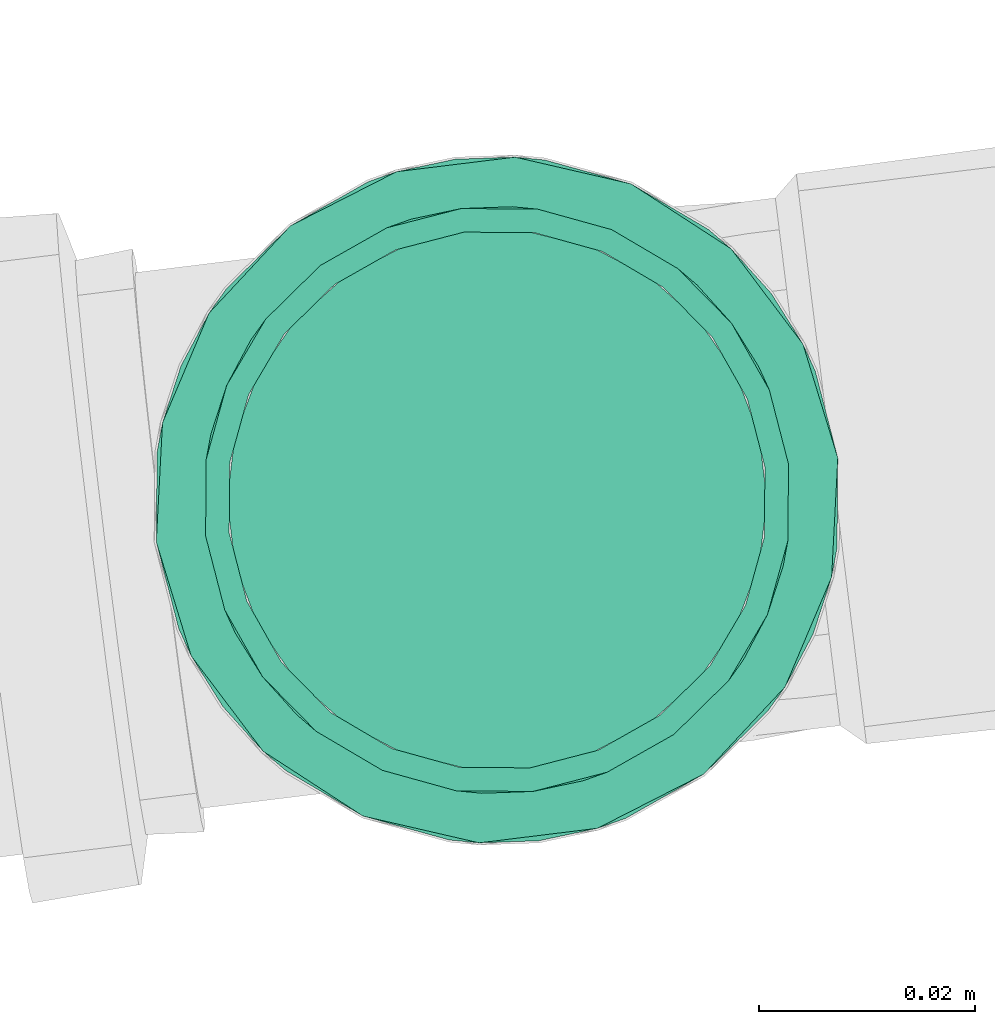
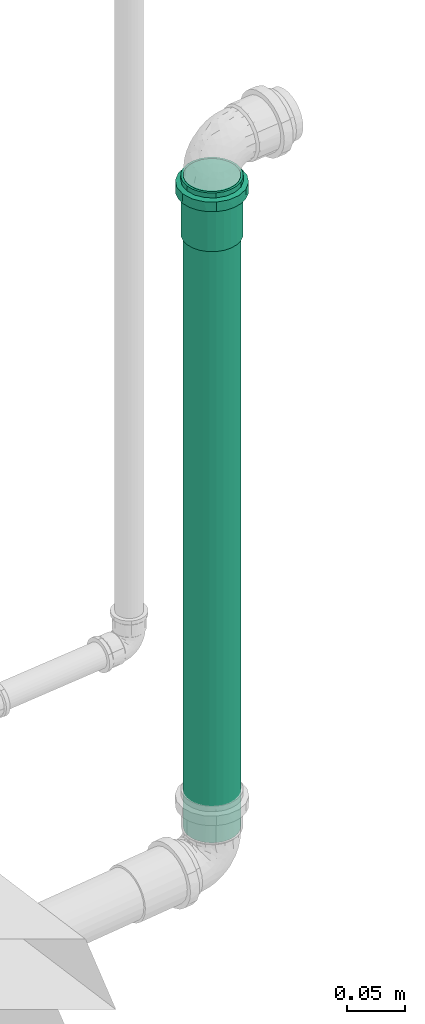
# One storey, part 57 of 97: 1 flow fitting, 1 flow segment.
"""IFC2X3 building model written with IfcOpenShell, lengths in centimetres."""

from ifc_helpers import new_model, entity, si_unit, converted_unit, derived_unit, direction, frame, origin, origin_2d_with_axis, place, context, subcontext, project, spatial, circle, extrude, faceted_brep, source, transform, mapped, material, type_object, type_shapes, element, save


model = new_model("IFC2X3")

# Units and contexts
model_context = context("Model", 3, precision=0.001, world=origin(), true_north=direction((6.12303176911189e-17, 1.0)))
body_context = subcontext(model_context, "Body", "Model", "MODEL_VIEW")
ifc_project = project(units=[si_unit("LENGTHUNIT", "METRE", prefix="CENTI"), si_unit("AREAUNIT", "SQUARE_METRE"), si_unit("VOLUMEUNIT", "CUBIC_METRE"), converted_unit("PLANEANGLEUNIT", "DEGREE", entity("IfcRatioMeasure", 0.0174532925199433), si_unit("PLANEANGLEUNIT", "RADIAN"), dimensions=[0, 0, 0, 0, 0, 0, 0]), si_unit("MASSUNIT", "GRAM", prefix="KILO"), derived_unit("MASSDENSITYUNIT", [(si_unit("MASSUNIT", "GRAM", prefix="KILO"), 1), (si_unit("LENGTHUNIT", "METRE"), -3)]), derived_unit("MOMENTOFINERTIAUNIT", [(si_unit("LENGTHUNIT", "METRE"), 4)]), si_unit("TIMEUNIT", "SECOND"), si_unit("FREQUENCYUNIT", "HERTZ"), si_unit("THERMODYNAMICTEMPERATUREUNIT", "DEGREE_CELSIUS"), derived_unit("THERMALTRANSMITTANCEUNIT", [(si_unit("MASSUNIT", "GRAM", prefix="KILO"), 1), (si_unit("THERMODYNAMICTEMPERATUREUNIT", "KELVIN"), -1), (si_unit("TIMEUNIT", "SECOND"), -3)]), derived_unit("VOLUMETRICFLOWRATEUNIT", [(si_unit("LENGTHUNIT", "METRE"), 3), (si_unit("TIMEUNIT", "SECOND"), -1)]), si_unit("ELECTRICCURRENTUNIT", "AMPERE"), si_unit("ELECTRICVOLTAGEUNIT", "VOLT"), si_unit("POWERUNIT", "WATT"), si_unit("FORCEUNIT", "NEWTON", prefix="KILO"), si_unit("ILLUMINANCEUNIT", "LUX"), si_unit("LUMINOUSFLUXUNIT", "LUMEN"), si_unit("LUMINOUSINTENSITYUNIT", "CANDELA"), derived_unit("USERDEFINED", [(si_unit("MASSUNIT", "GRAM", prefix="KILO"), -1), (si_unit("LENGTHUNIT", "METRE"), -2), (si_unit("TIMEUNIT", "SECOND"), 3), (si_unit("LUMINOUSFLUXUNIT", "LUMEN"), 1)]), derived_unit("LINEARVELOCITYUNIT", [(si_unit("LENGTHUNIT", "METRE"), 1), (si_unit("TIMEUNIT", "SECOND"), -1)]), si_unit("PRESSUREUNIT", "PASCAL"), derived_unit("USERDEFINED", [(si_unit("LENGTHUNIT", "METRE"), -2), (si_unit("MASSUNIT", "GRAM", prefix="KILO"), 1), (si_unit("TIMEUNIT", "SECOND"), -2)]), derived_unit("LINEARFORCEUNIT", [(si_unit("MASSUNIT", "GRAM", prefix="KILO"), 1), (si_unit("LENGTHUNIT", "METRE"), 1), (si_unit("TIMEUNIT", "SECOND"), -2), (si_unit("LENGTHUNIT", "METRE"), -1)]), derived_unit("PLANARFORCEUNIT", [(si_unit("MASSUNIT", "GRAM", prefix="KILO"), 1), (si_unit("LENGTHUNIT", "METRE"), 1), (si_unit("TIMEUNIT", "SECOND"), -2), (si_unit("LENGTHUNIT", "METRE"), -2)])], contexts=[model_context])

# Site, building, storey
site_placement = place(None, origin())
site = spatial("IfcSite", under=ifc_project, at=site_placement, Name="Default", CompositionType="ELEMENT")
building_placement = place(site_placement, origin())
building = spatial("IfcBuilding", under=site, at=building_placement, Name="HIDROSSANITÁRIO", CompositionType="ELEMENT")
storey_placement = place(building_placement, frame((0.0, 0.0, -260.0)))
storey = spatial("IfcBuildingStorey", under=building, at=storey_placement, Name="TÉRREO-HID", CompositionType="ELEMENT", Elevation=-260.0)

# Flow segment
pipe_segment_type = type_object("IfcPipeSegmentType", Name="Tipos de tubos:Tubo - Esgoto - Série Normal", PredefinedType="NOTDEFINED")
flow_segment_placement = place(storey_placement, origin())
element("IfcFlowSegment", 1, at=flow_segment_placement, inside=storey, type_object=pipe_segment_type, Name="Tipos de tubos:Tubo - Esgoto - Série Normal", ObjectType="Tipos de tubos:Tubo - Esgoto - Série Normal", context=body_context, shape_type="SweptSolid", body=[
    extrude(circle(Radius=2.5, at=origin_2d_with_axis()), frame((812.888179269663, 3194.00373930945, -21.9314800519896)), (0.0, 0.0, 1.0), 68.8114800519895),
])

# Flow fitting
ifc_material = material(Name="PVC Branco")
pipe_fitting_type = type_object("IfcPipeFittingType", Name="Luva Simples para Conexão - Serie Normal - Esgoto - MEP - Tigre:Standard", PredefinedType="NOTDEFINED", material=ifc_material)
shared_shape = source(origin(), body_context, "Body", "Brep", [
    faceted_brep([(1.65999999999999, 1.59, -2.75396078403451), (1.65999999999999, 2.24859956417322, -2.24859956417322), (1.65999999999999, 1.35999999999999, -2.35558909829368), (1.65999999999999, 0.703987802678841, -2.62731824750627), (1.65999999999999, 0.82304456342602, -3.07164412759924), (1.65999999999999, 1.9233304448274, -1.92333044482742), (1.65999999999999, 2.75396078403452, -1.59), (1.65999999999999, 2.35558909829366, -1.36000000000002), (1.65999999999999, 2.62731824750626, -0.703987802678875), (1.65999999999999, 3.07164412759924, -0.823044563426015), (1.65999999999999, 2.72, 0.0), (1.65999999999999, 3.18, 0.0), (1.65999999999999, 2.62731824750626, 0.703987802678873), (1.65999999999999, 3.07164412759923, 0.823044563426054), (1.65999999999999, 2.35558909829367, 1.36000000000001), (1.65999999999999, 2.7539607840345, 1.59000000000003), (1.65999999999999, 1.9233304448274, 1.92333044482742), (1.65999999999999, 2.24859956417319, 2.24859956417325), (1.65999999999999, 1.35999999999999, 2.35558909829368), (1.65999999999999, 1.58999999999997, 2.75396078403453), (1.65999999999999, 0.703987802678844, 2.62731824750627), (1.65999999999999, 0.823044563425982, 3.07164412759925), (1.65999999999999, 0.0, 2.72), (1.65999999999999, 0.0, 3.18), (1.65999999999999, -0.703987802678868, 2.62731824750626), (1.65999999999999, -0.823044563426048, 3.07164412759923), (1.65999999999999, -1.36000000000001, 2.35558909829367), (1.65999999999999, -1.59000000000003, 2.7539607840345), (1.65999999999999, -1.92333044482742, 1.9233304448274), (1.65999999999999, -2.24859956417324, 2.2485995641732), (1.65999999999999, -2.35558909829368, 1.35999999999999), (1.65999999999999, -2.75396078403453, 1.58999999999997), (1.65999999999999, -3.07164412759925, 0.823044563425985), (1.65999999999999, -2.62731824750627, 0.703987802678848), (1.65999999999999, -3.18, 0.0), (1.65999999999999, -2.72, 0.0), (1.65999999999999, -3.07164412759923, -0.823044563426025), (1.65999999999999, -2.62731824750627, -0.703987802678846), (1.65999999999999, -2.75396078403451, -1.59000000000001), (1.65999999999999, -2.35558909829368, -1.35999999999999), (1.65999999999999, -2.24859956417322, -2.24859956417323), (1.65999999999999, -1.92333044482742, -1.9233304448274), (1.65999999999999, -1.58999999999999, -2.75396078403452), (1.65999999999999, -1.36000000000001, -2.35558909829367), (1.65999999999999, -0.823044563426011, -3.07164412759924), (1.65999999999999, -0.70398780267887, -2.62731824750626), (1.65999999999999, 0.0, -3.18), (1.65999999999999, 0.0, -2.72), (0.650000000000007, -1.07081089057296, 2.94292196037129), (0.650000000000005, -2.43590738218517, 2.04420038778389), (0.650000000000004, -2.7120498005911, 1.56595386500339), (0.650000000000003, -2.98819221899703, 1.08770734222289), (0.650000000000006, -1.58976972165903, 2.75409372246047), (0.650000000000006, -2.0128385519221, 2.39914705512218), (0.650000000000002, -3.08409610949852, 0.54385367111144), (0.650000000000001, -3.18, 0.0), (0.650000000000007, -0.551852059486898, 3.13175019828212), (0.650000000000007, 0.552637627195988, 3.13161167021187), (0.650000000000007, 0.000392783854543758, 3.13168093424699), (0.650000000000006, 2.01344030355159, 2.39864206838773), (0.650000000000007, 1.07154907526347, 2.94265325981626), (0.650000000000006, 1.59046052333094, 2.75369484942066), (0.650000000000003, 2.98846497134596, 1.08695773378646), (0.650000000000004, 2.7124425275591, 1.56527351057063), (0.650000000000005, 2.43642008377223, 2.0435892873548), (0.650000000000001, 3.18, 0.0), (0.649999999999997, 2.43642008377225, -2.04358928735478), (0.649999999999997, 2.71244252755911, -1.5652735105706), (0.649999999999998, 2.98846497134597, -1.08695773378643), (0.649999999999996, 1.59046052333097, -2.75369484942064), (0.649999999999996, 2.01344030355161, -2.39864206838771), (0.649999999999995, 1.07154907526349, -2.94265325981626), (0.649999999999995, 0.552637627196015, -3.13161167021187), (0.649999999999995, -0.551852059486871, -3.13175019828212), (0.649999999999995, 0.000392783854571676, -3.13168093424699), (0.649999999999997, -2.01283855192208, -2.3991470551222), (0.649999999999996, -1.58976972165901, -2.75409372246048), (0.649999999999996, -1.07081089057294, -2.9429219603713), (0.649999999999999, -2.98819221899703, -1.08770734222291), (0.649999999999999, -2.71204980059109, -1.56595386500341), (0.649999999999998, -2.43590738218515, -2.04420038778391), (0.65, -3.08409610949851, -0.543853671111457), (0.64999999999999, -3.06961738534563, -0.625959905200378), (6.20000000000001, 1.36, -2.35558909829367), (6.20000000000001, 1.92333044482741, -1.92333044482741), (6.20000000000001, 1.24999999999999, -2.1650635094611), (6.20000000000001, 0.647047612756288, -2.41481456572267), (6.20000000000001, 0.70398780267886, -2.62731824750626), (6.20000000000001, 1.76776695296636, -1.76776695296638), (6.20000000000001, 2.35558909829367, -1.36), (6.20000000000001, 2.16506350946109, -1.25000000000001), (6.20000000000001, 2.41481456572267, -0.647047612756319), (6.20000000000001, 2.62731824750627, -0.703987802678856), (6.20000000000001, 2.5, 0.0), (6.20000000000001, 2.72, 0.0), (6.20000000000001, 2.41481456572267, 0.647047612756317), (6.20000000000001, 2.62731824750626, 0.703987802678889), (6.20000000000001, 2.16506350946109, 1.25000000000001), (6.20000000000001, 2.35558909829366, 1.36000000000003), (6.20000000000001, 1.76776695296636, 1.76776695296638), (6.20000000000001, 1.92333044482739, 1.92333044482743), (6.20000000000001, 1.24999999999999, 2.1650635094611), (6.20000000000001, 1.35999999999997, 2.35558909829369), (6.20000000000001, 0.64704761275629, 2.41481456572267), (6.20000000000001, 0.703987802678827, 2.62731824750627), (6.20000000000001, 0.0, 2.5), (6.20000000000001, 0.0, 2.72), (6.20000000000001, -0.647047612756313, 2.41481456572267), (6.20000000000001, -0.703987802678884, 2.62731824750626), (6.20000000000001, -1.25000000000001, 2.16506350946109), (6.20000000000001, -1.36000000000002, 2.35558909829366), (6.20000000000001, -1.76776695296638, 1.76776695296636), (6.20000000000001, -1.92333044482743, 1.92333044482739), (6.20000000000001, -2.1650635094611, 1.24999999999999), (6.20000000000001, -2.35558909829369, 1.35999999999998), (6.20000000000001, -2.62731824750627, 0.703987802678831), (6.20000000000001, -2.41481456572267, 0.647047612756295), (6.20000000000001, -2.72, 0.0), (6.20000000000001, -2.5, 0.0), (6.20000000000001, -2.62731824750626, -0.703987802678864), (6.20000000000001, -2.41481456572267, -0.647047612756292), (6.20000000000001, -2.35558909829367, -1.36000000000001), (6.20000000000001, -2.1650635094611, -1.24999999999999), (6.20000000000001, -1.9233304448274, -1.92333044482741), (6.20000000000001, -1.76776695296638, -1.76776695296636), (6.20000000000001, -1.36, -2.35558909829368), (6.20000000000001, -1.25000000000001, -2.16506350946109), (6.20000000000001, -0.703987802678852, -2.62731824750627), (6.20000000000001, -0.647047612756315, -2.41481456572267), (6.20000000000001, 0.0, -2.72), (6.20000000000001, 0.0, -2.5), (0.0, 1.24999999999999, -2.1650635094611), (0.0, 1.92333044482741, -1.92333044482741), (0.0, 1.36, -2.35558909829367), (0.0, 0.647047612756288, -2.41481456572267), (0.0, 1.76776695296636, -1.76776695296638), (0.0, 2.35558909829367, -1.36), (0.0, 2.16506350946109, -1.25000000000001), (0.0, 2.41481456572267, -0.647047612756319), (0.0, 2.62731824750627, -0.703987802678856), (0.0, 2.5, 0.0), (0.0, 2.72, 0.0), (0.0, 2.41481456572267, 0.647047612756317), (0.0, 2.62731824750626, 0.703987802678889), (0.0, 2.16506350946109, 1.25000000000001), (0.0, 2.35558909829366, 1.36000000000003), (0.0, 1.76776695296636, 1.76776695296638), (0.0, 1.92333044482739, 1.92333044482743), (0.0, 1.24999999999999, 2.1650635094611), (0.0, 1.35999999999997, 2.35558909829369), (0.0, 0.64704761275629, 2.41481456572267), (0.0, 0.703987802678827, 2.62731824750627), (0.0, 0.0, 2.5), (0.0, 0.0, 2.72), (0.0, -0.647047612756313, 2.41481456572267), (0.0, -0.703987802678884, 2.62731824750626), (0.0, -1.25000000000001, 2.16506350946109), (0.0, -1.36000000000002, 2.35558909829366), (0.0, -1.76776695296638, 1.76776695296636), (0.0, -1.92333044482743, 1.92333044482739), (0.0, -2.1650635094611, 1.24999999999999), (0.0, -2.35558909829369, 1.35999999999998), (0.0, -2.62731824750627, 0.703987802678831), (0.0, -2.41481456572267, 0.647047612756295), (0.0, -2.72, 0.0), (0.0, -2.5, 0.0), (0.0, -2.62731824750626, -0.703987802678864), (0.0, -2.41481456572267, -0.647047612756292), (0.0, -2.35558909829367, -1.36000000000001), (0.0, -2.1650635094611, -1.24999999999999), (0.0, -1.9233304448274, -1.92333044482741), (0.0, -1.76776695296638, -1.76776695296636), (0.0, -1.36, -2.35558909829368), (0.0, -1.25000000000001, -2.16506350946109), (0.0, -0.703987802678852, -2.62731824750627), (0.0, -0.647047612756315, -2.41481456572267), (0.0, 0.0, -2.72), (0.0, 0.0, -2.5), (0.0, 0.70398780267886, -2.62731824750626), (0.53, -2.63796899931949, 0.465183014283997), (0.529999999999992, -2.62558467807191, 0.535412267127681), (0.530000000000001, -2.55593799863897, 0.930366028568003), (0.530000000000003, -2.08354342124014, 1.74849844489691), (0.530000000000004, -1.72167322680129, 2.05210062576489), (0.530000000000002, -2.31974070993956, 1.33943223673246), (0.530000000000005, -0.472024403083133, 2.67872972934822), (0.530000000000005, -0.915913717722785, 2.51721626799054), (0.53, -2.72, 0.0), (0.530000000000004, -1.35980303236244, 2.35570280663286), (0.530000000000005, 0.916545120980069, 2.51698643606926), (0.530000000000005, 1.36039390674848, 2.35536163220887), (0.530000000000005, 0.47269633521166, 2.67861123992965), (0.530000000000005, 1.72218793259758, 2.05166868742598), (0.530000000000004, 2.08398195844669, 1.7479757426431), (0.530000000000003, 2.5561712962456, 0.929724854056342), (0.53, 2.72, 0.0), (0.530000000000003, 2.32007662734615, 1.33885029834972), (0.530000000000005, 0.000335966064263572, 2.67867048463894), (0.529999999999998, 2.55617129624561, -0.929724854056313), (0.529999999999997, 2.08398195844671, -1.74797574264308), (0.529999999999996, 1.7221879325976, -2.05166868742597), (0.529999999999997, 2.32007662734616, -1.3388502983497), (0.529999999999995, 0.472696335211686, -2.67861123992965), (0.529999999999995, 0.916545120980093, -2.51698643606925), (0.529999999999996, 1.3603939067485, -2.35536163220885), (0.529999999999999, -2.63796899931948, -0.465183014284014), (0.529999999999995, -0.915913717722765, -2.51721626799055), (0.529999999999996, -1.35980303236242, -2.35570280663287), (0.529999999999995, -0.47202440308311, -2.67872972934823), (0.529999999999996, -1.72167322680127, -2.0521006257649), (0.529999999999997, -2.08354342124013, -1.74849844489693), (0.529999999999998, -2.55593799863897, -0.930366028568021), (0.529999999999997, -2.31974070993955, -1.33943223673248), (0.529999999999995, 0.000335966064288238, -2.67867048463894), (3.9, -2.5, 0.0), (3.9, 2.5, 0.0)], [[[0, 1, 2]], [[0, 2, 3]], [[3, 4, 0]], [[2, 1, 5]], [[6, 5, 1]], [[7, 5, 6]], [[8, 7, 6]], [[8, 6, 9]], [[8, 9, 10]], [[10, 9, 11]], [[12, 10, 11]], [[12, 11, 13]], [[14, 12, 13]], [[14, 13, 15]], [[16, 14, 15]], [[15, 17, 16]], [[17, 18, 16]], [[17, 19, 18]], [[18, 19, 20]], [[21, 20, 19]], [[20, 21, 22]], [[22, 21, 23]], [[22, 23, 24]], [[24, 23, 25]], [[24, 25, 26]], [[27, 26, 25]], [[27, 28, 26]], [[28, 27, 29]], [[30, 28, 29]], [[31, 30, 29]], [[32, 30, 31]], [[33, 30, 32]], [[33, 32, 34]], [[35, 33, 34]], [[36, 35, 34]], [[36, 37, 35]], [[37, 36, 38]], [[39, 37, 38]], [[39, 38, 40]], [[39, 40, 41]], [[40, 42, 41]], [[41, 42, 43]], [[43, 42, 44]], [[44, 45, 43]], [[46, 45, 44]], [[4, 47, 46]], [[46, 47, 45]], [[4, 3, 47]], [[48, 27, 25]], [[31, 29, 49]], [[31, 49, 50, 51]], [[52, 53, 27]], [[32, 51, 54]], [[54, 55, 34]], [[54, 34, 32]], [[25, 56, 48]], [[49, 29, 53]], [[23, 57, 58, 56]], [[59, 19, 17]], [[27, 53, 29]], [[48, 52, 27]], [[31, 51, 32]], [[57, 23, 21]], [[60, 19, 61]], [[15, 62, 63, 64]], [[19, 60, 21]], [[15, 13, 62]], [[17, 64, 59]], [[57, 21, 60]], [[23, 56, 25]], [[15, 64, 17]], [[13, 65, 62]], [[13, 11, 65]], [[59, 61, 19]], [[65, 11, 9]], [[6, 1, 66]], [[6, 66, 67, 68]], [[69, 70, 0]], [[68, 65, 9]], [[71, 69, 0]], [[71, 0, 4]], [[4, 72, 71]], [[66, 1, 70]], [[46, 73, 74, 72]], [[75, 76, 42]], [[0, 70, 1]], [[75, 42, 40]], [[6, 68, 9]], [[73, 46, 44]], [[77, 42, 76]], [[38, 78, 79, 80]], [[42, 77, 44]], [[38, 36, 78]], [[40, 80, 75]], [[73, 44, 77]], [[46, 72, 4]], [[38, 80, 40]], [[36, 81, 82, 78]], [[55, 81, 34]], [[34, 81, 36]], [[83, 84, 85]], [[83, 85, 86]], [[86, 87, 83]], [[85, 84, 88]], [[89, 88, 84]], [[88, 89, 90]], [[90, 89, 91]], [[92, 91, 89]], [[92, 93, 91]], [[93, 92, 94]], [[95, 93, 94]], [[94, 96, 95]], [[95, 96, 97]], [[98, 97, 96]], [[97, 98, 99]], [[99, 98, 100]], [[101, 99, 100]], [[100, 102, 101]], [[101, 102, 103]], [[104, 103, 102]], [[103, 104, 105]], [[105, 104, 106]], [[105, 106, 107]], [[107, 106, 108]], [[107, 108, 109]], [[110, 109, 108]], [[110, 111, 109]], [[111, 110, 112]], [[112, 113, 111]], [[114, 113, 112]], [[113, 114, 115]], [[115, 116, 113]], [[117, 116, 115]], [[117, 118, 116]], [[119, 118, 117]], [[119, 120, 118]], [[120, 119, 121]], [[121, 122, 120]], [[122, 121, 123]], [[122, 123, 124]], [[123, 125, 124]], [[124, 125, 126]], [[126, 125, 127]], [[127, 128, 126]], [[129, 128, 127]], [[87, 130, 129]], [[129, 130, 128]], [[87, 86, 130]], [[131, 132, 133]], [[134, 131, 133]], [[135, 132, 131]], [[132, 135, 136]], [[137, 136, 135]], [[138, 136, 137]], [[136, 138, 139]], [[138, 140, 139]], [[141, 139, 140]], [[141, 140, 142]], [[142, 143, 141]], [[144, 143, 142]], [[143, 144, 145]], [[146, 145, 144]], [[147, 145, 146]], [[147, 146, 148]], [[148, 149, 147]], [[150, 149, 148]], [[149, 150, 151]], [[152, 151, 150]], [[153, 151, 152]], [[154, 153, 152]], [[155, 153, 154]], [[156, 155, 154]], [[155, 156, 157]], [[156, 158, 157]], [[159, 157, 158]], [[158, 160, 159]], [[159, 160, 161]], [[162, 161, 160]], [[160, 163, 162]], [[162, 163, 164]], [[163, 165, 164]], [[164, 165, 166]], [[165, 167, 166]], [[168, 166, 167]], [[167, 169, 168]], [[170, 168, 169]], [[171, 170, 169]], [[171, 172, 170]], [[173, 172, 171]], [[174, 172, 173]], [[173, 175, 174]], [[174, 175, 176]], [[175, 177, 176]], [[177, 134, 178]], [[176, 177, 178]], [[133, 178, 134]], [[162, 179, 180, 181]], [[159, 182, 183]], [[182, 161, 181, 184]], [[185, 155, 186]], [[161, 162, 181]], [[187, 179, 164]], [[183, 188, 157]], [[183, 157, 159]], [[161, 182, 159]], [[189, 190, 149]], [[189, 149, 151]], [[157, 188, 186]], [[157, 186, 155]], [[153, 155, 185]], [[164, 179, 162]], [[151, 191, 189]], [[147, 192, 193]], [[143, 194, 195]], [[194, 145, 193, 196]], [[143, 195, 141]], [[10, 12, 96, 94]], [[149, 192, 147]], [[153, 185, 197, 191]], [[153, 191, 151]], [[145, 147, 193]], [[190, 192, 149]], [[145, 194, 143]], [[139, 195, 198]], [[132, 199, 200]], [[199, 136, 198, 201]], [[202, 178, 203]], [[136, 139, 198]], [[139, 141, 195]], [[92, 8, 10, 94]], [[133, 203, 178]], [[200, 204, 133]], [[136, 199, 132]], [[205, 164, 166]], [[206, 207, 172]], [[133, 204, 203]], [[206, 172, 174]], [[176, 178, 202]], [[200, 133, 132]], [[174, 208, 206]], [[170, 209, 210]], [[166, 211, 205]], [[211, 168, 210, 212]], [[168, 211, 166]], [[172, 209, 170]], [[176, 202, 213, 208]], [[176, 208, 174]], [[168, 170, 210]], [[207, 209, 172]], [[205, 187, 164]], [[116, 118, 214, 165, 163]], [[156, 109, 111, 158]], [[111, 113, 160, 158]], [[113, 116, 163, 160]], [[107, 109, 156, 154]], [[154, 152, 105, 107]], [[103, 105, 152, 150]], [[103, 150, 148, 101]], [[142, 95, 97, 144]], [[97, 99, 146, 144]], [[99, 101, 148, 146]], [[93, 95, 142, 140, 215]], [[215, 140, 138, 91, 93]], [[135, 131, 85, 88]], [[90, 91, 138, 137]], [[90, 137, 135, 88]], [[86, 85, 131, 134]], [[134, 177, 130, 86]], [[128, 130, 177, 175]], [[128, 175, 173, 126]], [[167, 120, 122, 169]], [[122, 124, 171, 169]], [[124, 126, 173, 171]], [[118, 120, 167, 165, 214]], [[211, 78, 82, 81, 55, 187, 205]], [[79, 78, 211, 212, 210, 80]], [[75, 80, 210, 209, 207, 76]], [[207, 206, 208, 73, 77, 76]], [[213, 202, 72, 74, 73, 208]], [[203, 204, 69, 71, 72, 202]], [[198, 195, 65, 68]], [[199, 201, 198, 68, 67, 66]], [[204, 200, 199, 66, 70, 69]], [[195, 194, 62, 65]], [[197, 185, 56, 58, 57, 191]], [[63, 62, 194, 196, 193, 64]], [[57, 60, 61, 190, 189, 191]], [[193, 192, 190, 61, 59, 64]], [[48, 56, 185, 186, 188, 52]], [[187, 55, 54, 51, 181, 180, 179]], [[182, 184, 181, 51, 50, 49]], [[188, 183, 182, 49, 53, 52]], [[30, 33, 115, 114]], [[117, 115, 33, 35]], [[26, 28, 112, 110]], [[114, 112, 28, 30]], [[24, 26, 110, 108]], [[108, 106, 22, 24]], [[18, 20, 104, 102]], [[100, 16, 18, 102]], [[12, 14, 98, 96]], [[100, 98, 14, 16]], [[104, 20, 22, 106]], [[89, 7, 8, 92]], [[83, 87, 3, 2]], [[7, 89, 84, 5]], [[83, 2, 5, 84]], [[87, 129, 47, 3]], [[43, 45, 127, 125]], [[123, 41, 43, 125]], [[37, 39, 121, 119]], [[123, 121, 39, 41]], [[35, 37, 119, 117]], [[127, 45, 47, 129]]]),
])
type_shapes(pipe_fitting_type, [shared_shape])
flow_fitting_placement = place(storey_placement, frame((812.888179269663, 3194.00373930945, 46.8799999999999), z_axis=(0.122152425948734, -0.992511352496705, 0.0), x_axis=(0.0, 0.0, -1.0)))
element("IfcFlowFitting", 2, at=flow_fitting_placement, inside=storey, type_object=pipe_fitting_type, material=ifc_material, Name="Luva Simples para Conexão - Serie Normal - Esgoto - MEP - Tigre:Standard", ObjectType="Luva Simples para Conexão - Serie Normal - Esgoto - MEP - Tigre:Standard", context=body_context, shape_type="MappedRepresentation", body=[
    mapped(shared_shape, transform((0.0, 0.0, 0.0), scale=1.0)),
])

save(model, "model.ifc")
